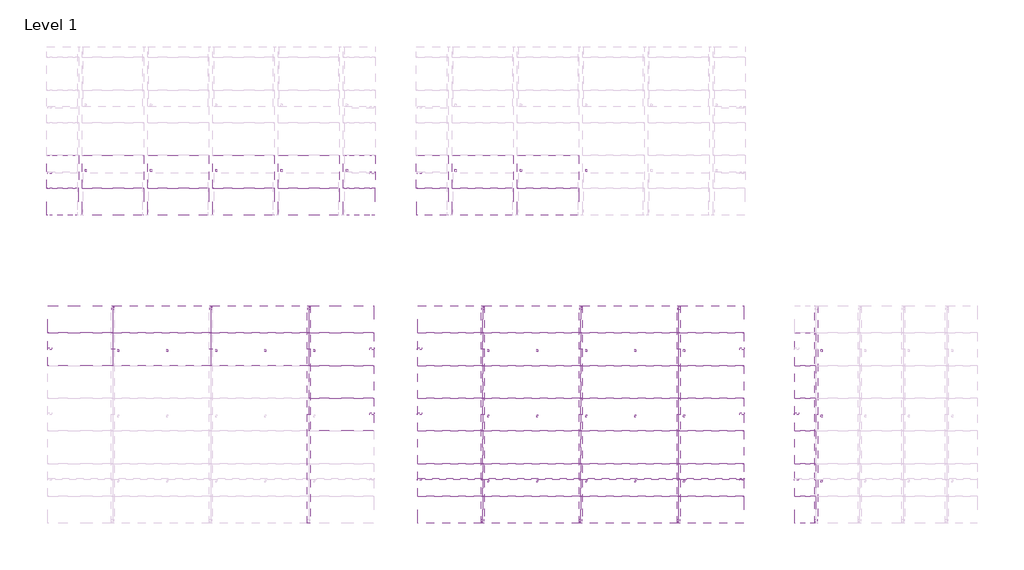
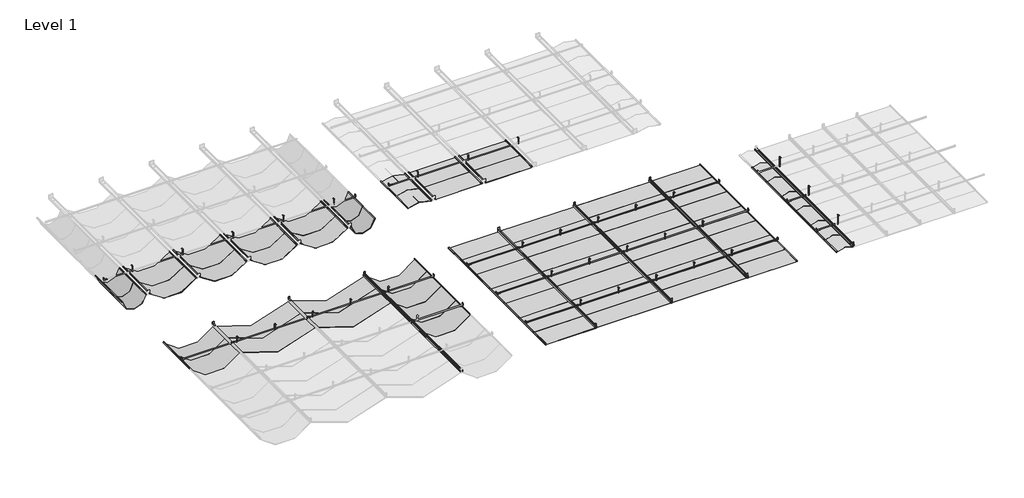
# One storey, part 30 of 32: 138 proxies.
"""IFC4 building model written with IfcOpenShell, lengths in millimetres."""

from ifc_helpers import new_model, si_unit, origin, place, context, project, spatial, transform, mapped, element, save
from components import generic_models_bd86510f, generic_models_00619762, generic_models_35db3c34, generic_models_3d7ed079, generic_models_ec380e44, generic_models_ebad526c, generic_models_70da1f73, generic_models_ead52ac8, generic_models_6aff8082, generic_models_fe305517, generic_models_696bcd8b, generic_models_00a943c8, generic_models_48d4e553, generic_models_385183af, generic_models_e8bac300, generic_models_648c235f, generic_models_1caa2ed6, generic_models_d653b811, generic_models_cf1b64cc, generic_models_ce491251, generic_models_44111244, generic_models_e62b76ac, generic_models_9e18e937, generic_models_28f6a95c, generic_models_9ccf16c1, generic_models_743fb40c

model = new_model("IFC4")

# Units and contexts
model_context = context("Model", 3, world=origin())
ifc_project = project(units=[si_unit("LENGTHUNIT", "METRE", prefix="MILLI")], contexts=[model_context])

# Site, building, storey
site = spatial("IfcSite", under=ifc_project)
building = spatial("IfcBuilding", under=site)
storey = spatial("IfcBuildingStorey", under=building, Name="Level 1", Elevation=0.0)

# Proxies
placement = place(None, origin())
generic_models_shape = generic_models_bd86510f(model_context)
element("IfcBuildingElementProxy", 1, Name="durlum_S5_DOMUS_panel : durlum_S5_DOMUS_panel_wall_width_cut", ObjectType="durlum_S5_DOMUS_panel : durlum_S5_DOMUS_panel_wall_width_cut", at=placement, inside=storey, context=model_context, shape_type="MappedRepresentation", body=[
    mapped(generic_models_shape, transform((37266.0104325, 22950.5348963, 3800.0), x_axis=(1.0, 0.0, 0.0), y_axis=(0.0, 1.0, 0.0), z_axis=(0.0, 0.0, 1.0))),
])
element("IfcBuildingElementProxy", 2, Name="durlum_S5_DOMUS_panel : durlum_S5_DOMUS_panel_wall_width_cut", ObjectType="durlum_S5_DOMUS_panel : durlum_S5_DOMUS_panel_wall_width_cut", at=placement, inside=storey, context=model_context, shape_type="MappedRepresentation", body=[
    mapped(generic_models_shape, transform((36066.0104325, 22950.5348963, 3800.0), x_axis=(1.0, 0.0, 0.0), y_axis=(0.0, 1.0, 0.0), z_axis=(0.0, 0.0, 1.0))),
])
element("IfcBuildingElementProxy", 3, Name="durlum_S5_DOMUS_panel : durlum_S5_DOMUS_panel_wall_width_cut", ObjectType="durlum_S5_DOMUS_panel : durlum_S5_DOMUS_panel_wall_width_cut", at=placement, inside=storey, context=model_context, shape_type="MappedRepresentation", body=[
    mapped(generic_models_shape, transform((38466.0104325, 22950.5348963, 3800.0), x_axis=(1.0, 0.0, 0.0), y_axis=(0.0, 1.0, 0.0), z_axis=(0.0, 0.0, 1.0))),
])
element("IfcBuildingElementProxy", 4, Name="durlum_S5_DOMUS_panel : durlum_S5_DOMUS_panel_wall_width_cut", ObjectType="durlum_S5_DOMUS_panel : durlum_S5_DOMUS_panel_wall_width_cut", at=placement, inside=storey, context=model_context, shape_type="MappedRepresentation", body=[
    mapped(generic_models_shape, transform((34866.0104325, 22950.5348963, 3800.0), x_axis=(1.0, 0.0, 0.0), y_axis=(0.0, 1.0, 0.0), z_axis=(0.0, 0.0, 1.0))),
])
generic_models_2_shape = generic_models_00619762(model_context)
element("IfcBuildingElementProxy", 5, Name="durlum_S5_DOMUS_panel : durlum_S5_DOMUS_panel", ObjectType="durlum_S5_DOMUS_panel : durlum_S5_DOMUS_panel", at=placement, inside=storey, context=model_context, shape_type="MappedRepresentation", body=[
    mapped(generic_models_2_shape, transform((36066.0104325, 23500.5348963, 3800.0), x_axis=(1.0, 0.0, 0.0), y_axis=(0.0, 1.0, 0.0), z_axis=(0.0, 0.0, 1.0))),
])
element("IfcBuildingElementProxy", 6, Name="durlum_S5_DOMUS_panel : durlum_S5_DOMUS_panel", ObjectType="durlum_S5_DOMUS_panel : durlum_S5_DOMUS_panel", at=placement, inside=storey, context=model_context, shape_type="MappedRepresentation", body=[
    mapped(generic_models_2_shape, transform((37266.0104325, 23500.5348963, 3800.0), x_axis=(1.0, 0.0, 0.0), y_axis=(0.0, 1.0, 0.0), z_axis=(0.0, 0.0, 1.0))),
])
element("IfcBuildingElementProxy", 7, Name="durlum_S5_DOMUS_panel : durlum_S5_DOMUS_panel", ObjectType="durlum_S5_DOMUS_panel : durlum_S5_DOMUS_panel", at=placement, inside=storey, context=model_context, shape_type="MappedRepresentation", body=[
    mapped(generic_models_2_shape, transform((34866.0104325, 23500.5348963, 3800.0), x_axis=(1.0, 0.0, 0.0), y_axis=(0.0, 1.0, 0.0), z_axis=(0.0, 0.0, 1.0))),
])
element("IfcBuildingElementProxy", 8, Name="durlum_S5_DOMUS_panel : durlum_S5_DOMUS_panel", ObjectType="durlum_S5_DOMUS_panel : durlum_S5_DOMUS_panel", at=placement, inside=storey, context=model_context, shape_type="MappedRepresentation", body=[
    mapped(generic_models_2_shape, transform((38466.0104325, 23500.5348963, 3800.0), x_axis=(1.0, 0.0, 0.0), y_axis=(0.0, 1.0, 0.0), z_axis=(0.0, 0.0, 1.0))),
])
generic_models_3_shape = generic_models_35db3c34(model_context)
element("IfcBuildingElementProxy", 9, Name="durlum_S5_DOMUS_panel : durlum_S5_DOMUS_panel_wall_length_cut", ObjectType="durlum_S5_DOMUS_panel : durlum_S5_DOMUS_panel_wall_length_cut", at=placement, inside=storey, context=model_context, shape_type="MappedRepresentation", body=[
    mapped(generic_models_3_shape, transform((39391.2604325, 23500.5348963, 3800.0), x_axis=(1.0, 0.0, 0.0), y_axis=(0.0, 1.0, 0.0), z_axis=(0.0, 0.0, 1.0))),
])
element("IfcBuildingElementProxy", 10, Name="durlum_S5_DOMUS_panel : durlum_S5_DOMUS_panel_wall_length_cut", ObjectType="durlum_S5_DOMUS_panel : durlum_S5_DOMUS_panel_wall_length_cut", at=placement, inside=storey, context=model_context, shape_type="MappedRepresentation", body=[
    mapped(generic_models_3_shape, transform((33940.7604325, 23500.5348963, 3800.0), x_axis=(1.0, 0.0, 0.0), y_axis=(0.0, 1.0, 0.0), z_axis=(0.0, 0.0, 1.0))),
])
generic_models_4_shape = generic_models_3d7ed079(model_context)
element("IfcBuildingElementProxy", 11, Name="durlum_S5_DOMUS_panel : durlum_S5_DOMUS_panel_wall_corner", ObjectType="durlum_S5_DOMUS_panel : durlum_S5_DOMUS_panel_wall_corner", at=placement, inside=storey, context=model_context, shape_type="MappedRepresentation", body=[
    mapped(generic_models_4_shape, transform((39391.2604325, 22950.5348963, 3800.0), x_axis=(1.0, 0.0, 0.0), y_axis=(0.0, 1.0, 0.0), z_axis=(0.0, 0.0, 1.0))),
])
element("IfcBuildingElementProxy", 12, Name="durlum_S5_DOMUS_panel : durlum_S5_DOMUS_panel_wall_corner", ObjectType="durlum_S5_DOMUS_panel : durlum_S5_DOMUS_panel_wall_corner", at=placement, inside=storey, context=model_context, shape_type="MappedRepresentation", body=[
    mapped(generic_models_4_shape, transform((33940.7604325, 22950.5348963, 3800.0), x_axis=(1.0, 0.0, 0.0), y_axis=(0.0, 1.0, 0.0), z_axis=(0.0, 0.0, 1.0))),
])
generic_models_5_shape = generic_models_ec380e44(model_context)
element("IfcBuildingElementProxy", 13, Name="durlum_S5_DOMUS_panel : durlum_S5_DOMUS_panel_wall_width_cut", ObjectType="durlum_S5_DOMUS_panel : durlum_S5_DOMUS_panel_wall_width_cut", at=placement, inside=storey, context=model_context, shape_type="MappedRepresentation", body=[
    mapped(generic_models_5_shape, transform((42862.0184144, 22950.5348963, 3800.0), x_axis=(1.0, 0.0, 0.0), y_axis=(0.0, 1.0, 0.0), z_axis=(0.0, 0.0, 1.0))),
])
element("IfcBuildingElementProxy", 14, Name="durlum_S5_DOMUS_panel : durlum_S5_DOMUS_panel_wall_width_cut", ObjectType="durlum_S5_DOMUS_panel : durlum_S5_DOMUS_panel_wall_width_cut", at=placement, inside=storey, context=model_context, shape_type="MappedRepresentation", body=[
    mapped(generic_models_5_shape, transform((41662.0184144, 22950.5348963, 3800.0), x_axis=(1.0, 0.0, 0.0), y_axis=(0.0, 1.0, 0.0), z_axis=(0.0, 0.0, 1.0))),
])
generic_models_6_shape = generic_models_ebad526c(model_context)
element("IfcBuildingElementProxy", 15, Name="durlum_S5_DOMUS_panel : durlum_S5_DOMUS_panel", ObjectType="durlum_S5_DOMUS_panel : durlum_S5_DOMUS_panel", at=placement, inside=storey, context=model_context, shape_type="MappedRepresentation", body=[
    mapped(generic_models_6_shape, transform((42862.0184144, 23500.5348963, 3800.0), x_axis=(1.0, 0.0, 0.0), y_axis=(0.0, 1.0, 0.0), z_axis=(0.0, 0.0, 1.0))),
])
element("IfcBuildingElementProxy", 16, Name="durlum_S5_DOMUS_panel : durlum_S5_DOMUS_panel", ObjectType="durlum_S5_DOMUS_panel : durlum_S5_DOMUS_panel", at=placement, inside=storey, context=model_context, shape_type="MappedRepresentation", body=[
    mapped(generic_models_6_shape, transform((41662.0184144, 23500.5348963, 3800.0), x_axis=(1.0, 0.0, 0.0), y_axis=(0.0, 1.0, 0.0), z_axis=(0.0, 0.0, 1.0))),
])
generic_models_7_shape = generic_models_70da1f73(model_context)
element("IfcBuildingElementProxy", 17, Name="durlum_S5_DOMUS_panel : durlum_S5_DOMUS_panel_wall_length_cut", ObjectType="durlum_S5_DOMUS_panel : durlum_S5_DOMUS_panel_wall_length_cut", at=placement, inside=storey, context=model_context, shape_type="MappedRepresentation", body=[
    mapped(generic_models_7_shape, transform((40736.7684144, 23500.5348963, 3800.0), x_axis=(1.0, 0.0, 0.0), y_axis=(0.0, 1.0, 0.0), z_axis=(0.0, 0.0, 1.0))),
])
generic_models_8_shape = generic_models_ead52ac8(model_context)
element("IfcBuildingElementProxy", 18, Name="durlum_S5_DOMUS_panel : durlum_S5_DOMUS_panel_wall_corner", ObjectType="durlum_S5_DOMUS_panel : durlum_S5_DOMUS_panel_wall_corner", at=placement, inside=storey, context=model_context, shape_type="MappedRepresentation", body=[
    mapped(generic_models_8_shape, transform((40736.7684144, 22950.5348963, 3800.0), x_axis=(1.0, 0.0, 0.0), y_axis=(0.0, 1.0, 0.0), z_axis=(0.0, 0.0, 1.0))),
])
generic_models_9_shape = generic_models_6aff8082(model_context)
element("IfcBuildingElementProxy", 19, Name="durlum_S7_DOMUS_ALT_panel : durlum_S7_DOMUS_panel_wall_length_cut", ObjectType="durlum_S7_DOMUS_ALT_panel : durlum_S7_DOMUS_panel_wall_length_cut", at=placement, inside=storey, context=model_context, shape_type="MappedRepresentation", body=[
    mapped(generic_models_9_shape, transform((47588.589341, 19637.9344659, 3700.0), x_axis=(1.0, 0.0, 0.0), y_axis=(0.0, 1.0, 0.0), z_axis=(0.0, 0.0, 1.0))),
])
element("IfcBuildingElementProxy", 20, Name="durlum_S7_DOMUS_ALT_panel : durlum_S7_DOMUS_panel_wall_length_cut", ObjectType="durlum_S7_DOMUS_ALT_panel : durlum_S7_DOMUS_panel_wall_length_cut", at=placement, inside=storey, context=model_context, shape_type="MappedRepresentation", body=[
    mapped(generic_models_9_shape, transform((47588.589341, 17837.9344659, 3700.0), x_axis=(1.0, 0.0, 0.0), y_axis=(0.0, 1.0, 0.0), z_axis=(0.0, 0.0, 1.0))),
])
element("IfcBuildingElementProxy", 21, Name="durlum_S7_DOMUS_ALT_panel : durlum_S7_DOMUS_panel_wall_length_cut", ObjectType="durlum_S7_DOMUS_ALT_panel : durlum_S7_DOMUS_panel_wall_length_cut", at=placement, inside=storey, context=model_context, shape_type="MappedRepresentation", body=[
    mapped(generic_models_9_shape, transform((47588.589341, 20237.9344659, 3700.0), x_axis=(1.0, 0.0, 0.0), y_axis=(0.0, 1.0, 0.0), z_axis=(0.0, 0.0, 1.0))),
])
element("IfcBuildingElementProxy", 22, Name="durlum_S7_DOMUS_ALT_panel : durlum_S7_DOMUS_panel_wall_length_cut", ObjectType="durlum_S7_DOMUS_ALT_panel : durlum_S7_DOMUS_panel_wall_length_cut", at=placement, inside=storey, context=model_context, shape_type="MappedRepresentation", body=[
    mapped(generic_models_9_shape, transform((47588.589341, 18437.9344659, 3700.0), x_axis=(1.0, 0.0, 0.0), y_axis=(0.0, 1.0, 0.0), z_axis=(0.0, 0.0, 1.0))),
])
element("IfcBuildingElementProxy", 23, Name="durlum_S7_DOMUS_ALT_panel : durlum_S7_DOMUS_panel_wall_length_cut", ObjectType="durlum_S7_DOMUS_ALT_panel : durlum_S7_DOMUS_panel_wall_length_cut", at=placement, inside=storey, context=model_context, shape_type="MappedRepresentation", body=[
    mapped(generic_models_9_shape, transform((47588.589341, 19037.9344659, 3700.0), x_axis=(1.0, 0.0, 0.0), y_axis=(0.0, 1.0, 0.0), z_axis=(0.0, 0.0, 1.0))),
])
generic_models_10_shape = generic_models_fe305517(model_context)
element("IfcBuildingElementProxy", 24, Name="durlum_S7_DOMUS_ALT_panel : durlum_S7_DOMUS_panel_wall_corner", ObjectType="durlum_S7_DOMUS_ALT_panel : durlum_S7_DOMUS_panel_wall_corner", at=placement, inside=storey, context=model_context, shape_type="MappedRepresentation", body=[
    mapped(generic_models_10_shape, transform((47588.589341, 17287.9344659, 3700.0), x_axis=(1.0, 0.0, 0.0), y_axis=(0.0, 1.0, 0.0), z_axis=(0.0, 0.0, 1.0))),
])
generic_models_11_shape = generic_models_696bcd8b(model_context)
element("IfcBuildingElementProxy", 25, Name="durlum_S7_DOMUS_panel : durlum_S7_DOMUS_panel", ObjectType="durlum_S7_DOMUS_panel : durlum_S7_DOMUS_panel", at=placement, inside=storey, context=model_context, shape_type="MappedRepresentation", body=[
    mapped(generic_models_11_shape, transform((35766.0104325, 20237.9344659, 3800.0), x_axis=(1.0, 0.0, 0.0), y_axis=(0.0, 1.0, 0.0), z_axis=(0.0, 0.0, 1.0))),
])
element("IfcBuildingElementProxy", 26, Name="durlum_S7_DOMUS_panel : durlum_S7_DOMUS_panel", ObjectType="durlum_S7_DOMUS_panel : durlum_S7_DOMUS_panel", at=placement, inside=storey, context=model_context, shape_type="MappedRepresentation", body=[
    mapped(generic_models_11_shape, transform((37566.0104325, 20237.9344659, 3800.0), x_axis=(1.0, 0.0, 0.0), y_axis=(0.0, 1.0, 0.0), z_axis=(0.0, 0.0, 1.0))),
])
generic_models_12_shape = generic_models_00a943c8(model_context)
element("IfcBuildingElementProxy", 27, Name="durlum_S7_DOMUS_panel : durlum_S7_DOMUS_panel_wall_width_cut", ObjectType="durlum_S7_DOMUS_panel : durlum_S7_DOMUS_panel_wall_width_cut", at=placement, inside=storey, context=model_context, shape_type="MappedRepresentation", body=[
    mapped(generic_models_12_shape, transform((37566.0104325, 20787.9344659, 3800.0), x_axis=(1.0, 0.0, 0.0), y_axis=(0.0, 1.0, 0.0), z_axis=(0.0, 0.0, 1.0))),
])
element("IfcBuildingElementProxy", 28, Name="durlum_S7_DOMUS_panel : durlum_S7_DOMUS_panel_wall_width_cut", ObjectType="durlum_S7_DOMUS_panel : durlum_S7_DOMUS_panel_wall_width_cut", at=placement, inside=storey, context=model_context, shape_type="MappedRepresentation", body=[
    mapped(generic_models_12_shape, transform((35766.0104325, 20787.9344659, 3800.0), x_axis=(1.0, 0.0, 0.0), y_axis=(0.0, 1.0, 0.0), z_axis=(0.0, 0.0, 1.0))),
])
generic_models_13_shape = generic_models_48d4e553(model_context)
element("IfcBuildingElementProxy", 29, Name="durlum_S7_DOMUS_panel : durlum_S7_DOMUS_panel_wall_length_cut", ObjectType="durlum_S7_DOMUS_panel : durlum_S7_DOMUS_panel_wall_length_cut", at=placement, inside=storey, context=model_context, shape_type="MappedRepresentation", body=[
    mapped(generic_models_13_shape, transform((39066.0104325, 19037.9344659, 3800.0), x_axis=(1.0, 0.0, 0.0), y_axis=(0.0, 1.0, 0.0), z_axis=(0.0, 0.0, 1.0))),
])
element("IfcBuildingElementProxy", 30, Name="durlum_S7_DOMUS_panel : durlum_S7_DOMUS_panel_wall_length_cut", ObjectType="durlum_S7_DOMUS_panel : durlum_S7_DOMUS_panel_wall_length_cut", at=placement, inside=storey, context=model_context, shape_type="MappedRepresentation", body=[
    mapped(generic_models_13_shape, transform((39066.0104325, 19637.9344659, 3800.0), x_axis=(1.0, 0.0, 0.0), y_axis=(0.0, 1.0, 0.0), z_axis=(0.0, 0.0, 1.0))),
])
element("IfcBuildingElementProxy", 31, Name="durlum_S7_DOMUS_panel : durlum_S7_DOMUS_panel_wall_length_cut", ObjectType="durlum_S7_DOMUS_panel : durlum_S7_DOMUS_panel_wall_length_cut", at=placement, inside=storey, context=model_context, shape_type="MappedRepresentation", body=[
    mapped(generic_models_13_shape, transform((39066.0104325, 20237.9344659, 3800.0), x_axis=(1.0, 0.0, 0.0), y_axis=(0.0, 1.0, 0.0), z_axis=(0.0, 0.0, 1.0))),
])
element("IfcBuildingElementProxy", 32, Name="durlum_S7_DOMUS_panel : durlum_S7_DOMUS_panel_wall_length_cut", ObjectType="durlum_S7_DOMUS_panel : durlum_S7_DOMUS_panel_wall_length_cut", at=placement, inside=storey, context=model_context, shape_type="MappedRepresentation", body=[
    mapped(generic_models_13_shape, transform((34266.0104325, 20237.9344659, 3800.0), x_axis=(1.0, 0.0, 0.0), y_axis=(0.0, 1.0, 0.0), z_axis=(0.0, 0.0, 1.0))),
])
generic_models_14_shape = generic_models_385183af(model_context)
element("IfcBuildingElementProxy", 33, Name="durlum_S7_DOMUS_panel : durlum_S7_DOMUS_panel", ObjectType="durlum_S7_DOMUS_panel : durlum_S7_DOMUS_panel", at=placement, inside=storey, context=model_context, shape_type="MappedRepresentation", body=[
    mapped(generic_models_14_shape, transform((39066.0104325, 20787.9344659, 3800.0), x_axis=(1.0, 0.0, 0.0), y_axis=(0.0, 1.0, 0.0), z_axis=(0.0, 0.0, 1.0))),
])
element("IfcBuildingElementProxy", 34, Name="durlum_S7_DOMUS_panel : durlum_S7_DOMUS_panel", ObjectType="durlum_S7_DOMUS_panel : durlum_S7_DOMUS_panel", at=placement, inside=storey, context=model_context, shape_type="MappedRepresentation", body=[
    mapped(generic_models_14_shape, transform((34266.0104325, 20787.9344659, 3800.0), x_axis=(1.0, 0.0, 0.0), y_axis=(0.0, 1.0, 0.0), z_axis=(0.0, 0.0, 1.0))),
])
generic_models_15_shape = generic_models_e8bac300(model_context)
element("IfcBuildingElementProxy", 35, Name="durlum_S7_DOMUS : durlum_S7_DOMUS", ObjectType="durlum_S7_DOMUS : durlum_S7_DOMUS", at=placement, inside=storey, context=model_context, shape_type="MappedRepresentation", body=[
    mapped(generic_models_15_shape, transform((43462.0184144, 19037.9344659, 0.0), x_axis=(1.0, 0.0, 0.0), y_axis=(0.0, 1.0, 0.0), z_axis=(0.0, 0.0, 1.0))),
])
generic_models_16_shape = generic_models_648c235f(model_context)
element("IfcBuildingElementProxy", 36, Name="durlum_S7_DOMUS_panel : durlum_S7_DOMUS_panel", ObjectType="durlum_S7_DOMUS_panel : durlum_S7_DOMUS_panel", at=placement, inside=storey, context=model_context, shape_type="MappedRepresentation", body=[
    mapped(generic_models_16_shape, transform((42562.0184144, 19637.9344659, 3800.0), x_axis=(1.0, 0.0, 0.0), y_axis=(0.0, 1.0, 0.0), z_axis=(0.0, 0.0, 1.0))),
])
element("IfcBuildingElementProxy", 37, Name="durlum_S7_DOMUS_panel : durlum_S7_DOMUS_panel", ObjectType="durlum_S7_DOMUS_panel : durlum_S7_DOMUS_panel", at=placement, inside=storey, context=model_context, shape_type="MappedRepresentation", body=[
    mapped(generic_models_16_shape, transform((44362.0184144, 19637.9344659, 3800.0), x_axis=(1.0, 0.0, 0.0), y_axis=(0.0, 1.0, 0.0), z_axis=(0.0, 0.0, 1.0))),
])
element("IfcBuildingElementProxy", 38, Name="durlum_S7_DOMUS_panel : durlum_S7_DOMUS_panel", ObjectType="durlum_S7_DOMUS_panel : durlum_S7_DOMUS_panel", at=placement, inside=storey, context=model_context, shape_type="MappedRepresentation", body=[
    mapped(generic_models_16_shape, transform((42562.0184144, 17837.9344659, 3800.0), x_axis=(1.0, 0.0, 0.0), y_axis=(0.0, 1.0, 0.0), z_axis=(0.0, 0.0, 1.0))),
])
element("IfcBuildingElementProxy", 39, Name="durlum_S7_DOMUS_panel : durlum_S7_DOMUS_panel", ObjectType="durlum_S7_DOMUS_panel : durlum_S7_DOMUS_panel", at=placement, inside=storey, context=model_context, shape_type="MappedRepresentation", body=[
    mapped(generic_models_16_shape, transform((44362.0184144, 17837.9344659, 3800.0), x_axis=(1.0, 0.0, 0.0), y_axis=(0.0, 1.0, 0.0), z_axis=(0.0, 0.0, 1.0))),
])
element("IfcBuildingElementProxy", 40, Name="durlum_S7_DOMUS_panel : durlum_S7_DOMUS_panel", ObjectType="durlum_S7_DOMUS_panel : durlum_S7_DOMUS_panel", at=placement, inside=storey, context=model_context, shape_type="MappedRepresentation", body=[
    mapped(generic_models_16_shape, transform((42562.0184144, 20237.9344659, 3800.0), x_axis=(1.0, 0.0, 0.0), y_axis=(0.0, 1.0, 0.0), z_axis=(0.0, 0.0, 1.0))),
])
element("IfcBuildingElementProxy", 41, Name="durlum_S7_DOMUS_panel : durlum_S7_DOMUS_panel", ObjectType="durlum_S7_DOMUS_panel : durlum_S7_DOMUS_panel", at=placement, inside=storey, context=model_context, shape_type="MappedRepresentation", body=[
    mapped(generic_models_16_shape, transform((44362.0184144, 20237.9344659, 3800.0), x_axis=(1.0, 0.0, 0.0), y_axis=(0.0, 1.0, 0.0), z_axis=(0.0, 0.0, 1.0))),
])
element("IfcBuildingElementProxy", 42, Name="durlum_S7_DOMUS_panel : durlum_S7_DOMUS_panel", ObjectType="durlum_S7_DOMUS_panel : durlum_S7_DOMUS_panel", at=placement, inside=storey, context=model_context, shape_type="MappedRepresentation", body=[
    mapped(generic_models_16_shape, transform((42562.0184144, 18437.9344659, 3800.0), x_axis=(1.0, 0.0, 0.0), y_axis=(0.0, 1.0, 0.0), z_axis=(0.0, 0.0, 1.0))),
])
element("IfcBuildingElementProxy", 43, Name="durlum_S7_DOMUS_panel : durlum_S7_DOMUS_panel", ObjectType="durlum_S7_DOMUS_panel : durlum_S7_DOMUS_panel", at=placement, inside=storey, context=model_context, shape_type="MappedRepresentation", body=[
    mapped(generic_models_16_shape, transform((44362.0184144, 18437.9344659, 3800.0), x_axis=(1.0, 0.0, 0.0), y_axis=(0.0, 1.0, 0.0), z_axis=(0.0, 0.0, 1.0))),
])
element("IfcBuildingElementProxy", 44, Name="durlum_S7_DOMUS_panel : durlum_S7_DOMUS_panel", ObjectType="durlum_S7_DOMUS_panel : durlum_S7_DOMUS_panel", at=placement, inside=storey, context=model_context, shape_type="MappedRepresentation", body=[
    mapped(generic_models_16_shape, transform((42562.0184144, 19037.9344659, 3800.0), x_axis=(1.0, 0.0, 0.0), y_axis=(0.0, 1.0, 0.0), z_axis=(0.0, 0.0, 1.0))),
])
element("IfcBuildingElementProxy", 45, Name="durlum_S7_DOMUS_panel : durlum_S7_DOMUS_panel", ObjectType="durlum_S7_DOMUS_panel : durlum_S7_DOMUS_panel", at=placement, inside=storey, context=model_context, shape_type="MappedRepresentation", body=[
    mapped(generic_models_16_shape, transform((44362.0184144, 19037.9344659, 3800.0), x_axis=(1.0, 0.0, 0.0), y_axis=(0.0, 1.0, 0.0), z_axis=(0.0, 0.0, 1.0))),
])
generic_models_17_shape = generic_models_1caa2ed6(model_context)
element("IfcBuildingElementProxy", 46, Name="durlum_S7_DOMUS_panel : durlum_S7_DOMUS_panel_wall_width_cut", ObjectType="durlum_S7_DOMUS_panel : durlum_S7_DOMUS_panel_wall_width_cut", at=placement, inside=storey, context=model_context, shape_type="MappedRepresentation", body=[
    mapped(generic_models_17_shape, transform((44362.0184144, 17287.9344659, 3800.0), x_axis=(1.0, 0.0, 0.0), y_axis=(0.0, 1.0, 0.0), z_axis=(0.0, 0.0, 1.0))),
])
element("IfcBuildingElementProxy", 47, Name="durlum_S7_DOMUS_panel : durlum_S7_DOMUS_panel_wall_width_cut", ObjectType="durlum_S7_DOMUS_panel : durlum_S7_DOMUS_panel_wall_width_cut", at=placement, inside=storey, context=model_context, shape_type="MappedRepresentation", body=[
    mapped(generic_models_17_shape, transform((44362.0184144, 20787.9344659, 3800.0), x_axis=(1.0, 0.0, 0.0), y_axis=(0.0, 1.0, 0.0), z_axis=(0.0, 0.0, 1.0))),
])
element("IfcBuildingElementProxy", 48, Name="durlum_S7_DOMUS_panel : durlum_S7_DOMUS_panel_wall_width_cut", ObjectType="durlum_S7_DOMUS_panel : durlum_S7_DOMUS_panel_wall_width_cut", at=placement, inside=storey, context=model_context, shape_type="MappedRepresentation", body=[
    mapped(generic_models_17_shape, transform((42562.0184144, 17287.9344659, 3800.0), x_axis=(1.0, 0.0, 0.0), y_axis=(0.0, 1.0, 0.0), z_axis=(0.0, 0.0, 1.0))),
])
element("IfcBuildingElementProxy", 49, Name="durlum_S7_DOMUS_panel : durlum_S7_DOMUS_panel_wall_width_cut", ObjectType="durlum_S7_DOMUS_panel : durlum_S7_DOMUS_panel_wall_width_cut", at=placement, inside=storey, context=model_context, shape_type="MappedRepresentation", body=[
    mapped(generic_models_17_shape, transform((42562.0184144, 20787.9344659, 3800.0), x_axis=(1.0, 0.0, 0.0), y_axis=(0.0, 1.0, 0.0), z_axis=(0.0, 0.0, 1.0))),
])
generic_models_18_shape = generic_models_d653b811(model_context)
element("IfcBuildingElementProxy", 50, Name="durlum_S7_DOMUS_panel : durlum_S7_DOMUS_panel_wall_length_cut", ObjectType="durlum_S7_DOMUS_panel : durlum_S7_DOMUS_panel_wall_length_cut", at=placement, inside=storey, context=model_context, shape_type="MappedRepresentation", body=[
    mapped(generic_models_18_shape, transform((41062.0184144, 18437.9344659, 3800.0), x_axis=(1.0, 0.0, 0.0), y_axis=(0.0, 1.0, 0.0), z_axis=(0.0, 0.0, 1.0))),
])
element("IfcBuildingElementProxy", 51, Name="durlum_S7_DOMUS_panel : durlum_S7_DOMUS_panel_wall_length_cut", ObjectType="durlum_S7_DOMUS_panel : durlum_S7_DOMUS_panel_wall_length_cut", at=placement, inside=storey, context=model_context, shape_type="MappedRepresentation", body=[
    mapped(generic_models_18_shape, transform((41062.0184144, 19037.9344659, 3800.0), x_axis=(1.0, 0.0, 0.0), y_axis=(0.0, 1.0, 0.0), z_axis=(0.0, 0.0, 1.0))),
])
element("IfcBuildingElementProxy", 52, Name="durlum_S7_DOMUS_panel : durlum_S7_DOMUS_panel_wall_length_cut", ObjectType="durlum_S7_DOMUS_panel : durlum_S7_DOMUS_panel_wall_length_cut", at=placement, inside=storey, context=model_context, shape_type="MappedRepresentation", body=[
    mapped(generic_models_18_shape, transform((45862.0184144, 18437.9344659, 3800.0), x_axis=(1.0, 0.0, 0.0), y_axis=(0.0, 1.0, 0.0), z_axis=(0.0, 0.0, 1.0))),
])
element("IfcBuildingElementProxy", 53, Name="durlum_S7_DOMUS_panel : durlum_S7_DOMUS_panel_wall_length_cut", ObjectType="durlum_S7_DOMUS_panel : durlum_S7_DOMUS_panel_wall_length_cut", at=placement, inside=storey, context=model_context, shape_type="MappedRepresentation", body=[
    mapped(generic_models_18_shape, transform((45862.0184144, 19037.9344659, 3800.0), x_axis=(1.0, 0.0, 0.0), y_axis=(0.0, 1.0, 0.0), z_axis=(0.0, 0.0, 1.0))),
])
element("IfcBuildingElementProxy", 54, Name="durlum_S7_DOMUS_panel : durlum_S7_DOMUS_panel_wall_length_cut", ObjectType="durlum_S7_DOMUS_panel : durlum_S7_DOMUS_panel_wall_length_cut", at=placement, inside=storey, context=model_context, shape_type="MappedRepresentation", body=[
    mapped(generic_models_18_shape, transform((41062.0184144, 19637.9344659, 3800.0), x_axis=(1.0, 0.0, 0.0), y_axis=(0.0, 1.0, 0.0), z_axis=(0.0, 0.0, 1.0))),
])
element("IfcBuildingElementProxy", 55, Name="durlum_S7_DOMUS_panel : durlum_S7_DOMUS_panel_wall_length_cut", ObjectType="durlum_S7_DOMUS_panel : durlum_S7_DOMUS_panel_wall_length_cut", at=placement, inside=storey, context=model_context, shape_type="MappedRepresentation", body=[
    mapped(generic_models_18_shape, transform((45862.0184144, 19637.9344659, 3800.0), x_axis=(1.0, 0.0, 0.0), y_axis=(0.0, 1.0, 0.0), z_axis=(0.0, 0.0, 1.0))),
])
element("IfcBuildingElementProxy", 56, Name="durlum_S7_DOMUS_panel : durlum_S7_DOMUS_panel_wall_length_cut", ObjectType="durlum_S7_DOMUS_panel : durlum_S7_DOMUS_panel_wall_length_cut", at=placement, inside=storey, context=model_context, shape_type="MappedRepresentation", body=[
    mapped(generic_models_18_shape, transform((41062.0184144, 17837.9344659, 3800.0), x_axis=(1.0, 0.0, 0.0), y_axis=(0.0, 1.0, 0.0), z_axis=(0.0, 0.0, 1.0))),
])
element("IfcBuildingElementProxy", 57, Name="durlum_S7_DOMUS_panel : durlum_S7_DOMUS_panel_wall_length_cut", ObjectType="durlum_S7_DOMUS_panel : durlum_S7_DOMUS_panel_wall_length_cut", at=placement, inside=storey, context=model_context, shape_type="MappedRepresentation", body=[
    mapped(generic_models_18_shape, transform((45862.0184144, 17837.9344659, 3800.0), x_axis=(1.0, 0.0, 0.0), y_axis=(0.0, 1.0, 0.0), z_axis=(0.0, 0.0, 1.0))),
])
element("IfcBuildingElementProxy", 58, Name="durlum_S7_DOMUS_panel : durlum_S7_DOMUS_panel_wall_length_cut", ObjectType="durlum_S7_DOMUS_panel : durlum_S7_DOMUS_panel_wall_length_cut", at=placement, inside=storey, context=model_context, shape_type="MappedRepresentation", body=[
    mapped(generic_models_18_shape, transform((45862.0184144, 20237.9344659, 3800.0), x_axis=(1.0, 0.0, 0.0), y_axis=(0.0, 1.0, 0.0), z_axis=(0.0, 0.0, 1.0))),
])
element("IfcBuildingElementProxy", 59, Name="durlum_S7_DOMUS_panel : durlum_S7_DOMUS_panel_wall_length_cut", ObjectType="durlum_S7_DOMUS_panel : durlum_S7_DOMUS_panel_wall_length_cut", at=placement, inside=storey, context=model_context, shape_type="MappedRepresentation", body=[
    mapped(generic_models_18_shape, transform((41062.0184144, 20237.9344659, 3800.0), x_axis=(1.0, 0.0, 0.0), y_axis=(0.0, 1.0, 0.0), z_axis=(0.0, 0.0, 1.0))),
])
generic_models_19_shape = generic_models_cf1b64cc(model_context)
element("IfcBuildingElementProxy", 60, Name="durlum_S7_DOMUS_panel : durlum_S7_DOMUS_panel", ObjectType="durlum_S7_DOMUS_panel : durlum_S7_DOMUS_panel", at=placement, inside=storey, context=model_context, shape_type="MappedRepresentation", body=[
    mapped(generic_models_19_shape, transform((45862.0184144, 20787.9344659, 3800.0), x_axis=(1.0, 0.0, 0.0), y_axis=(0.0, 1.0, 0.0), z_axis=(0.0, 0.0, 1.0))),
])
element("IfcBuildingElementProxy", 61, Name="durlum_S7_DOMUS_panel : durlum_S7_DOMUS_panel", ObjectType="durlum_S7_DOMUS_panel : durlum_S7_DOMUS_panel", at=placement, inside=storey, context=model_context, shape_type="MappedRepresentation", body=[
    mapped(generic_models_19_shape, transform((41062.0184144, 20787.9344659, 3800.0), x_axis=(1.0, 0.0, 0.0), y_axis=(0.0, 1.0, 0.0), z_axis=(0.0, 0.0, 1.0))),
])
element("IfcBuildingElementProxy", 62, Name="durlum_S7_DOMUS_panel : durlum_S7_DOMUS_panel", ObjectType="durlum_S7_DOMUS_panel : durlum_S7_DOMUS_panel", at=placement, inside=storey, context=model_context, shape_type="MappedRepresentation", body=[
    mapped(generic_models_19_shape, transform((41062.0184144, 17287.9344659, 3800.0), x_axis=(1.0, 0.0, 0.0), y_axis=(0.0, 1.0, 0.0), z_axis=(0.0, 0.0, 1.0))),
])
element("IfcBuildingElementProxy", 63, Name="durlum_S7_DOMUS_panel : durlum_S7_DOMUS_panel", ObjectType="durlum_S7_DOMUS_panel : durlum_S7_DOMUS_panel", at=placement, inside=storey, context=model_context, shape_type="MappedRepresentation", body=[
    mapped(generic_models_19_shape, transform((45862.0184144, 17287.9344659, 3800.0), x_axis=(1.0, 0.0, 0.0), y_axis=(0.0, 1.0, 0.0), z_axis=(0.0, 0.0, 1.0))),
])
generic_models_20_shape = generic_models_ce491251(model_context)
element("IfcBuildingElementProxy", 64, Name="durlum_U1300 : durlum_U1300", ObjectType="durlum_U1300 : durlum_U1300", at=placement, inside=storey, context=model_context, shape_type="MappedRepresentation", body=[
    mapped(generic_models_20_shape, transform((37966.0104325, 23500.5348963, 3149.4124682), x_axis=(-1.0, 0.0, 0.0), y_axis=(0.0, -1.0, 0.0), z_axis=(0.0, 0.0, 1.0))),
])
element("IfcBuildingElementProxy", 65, Name="durlum_U1300 : durlum_U1300", ObjectType="durlum_U1300 : durlum_U1300", at=placement, inside=storey, context=model_context, shape_type="MappedRepresentation", body=[
    mapped(generic_models_20_shape, transform((34366.0104325, 23500.5348963, 3149.4124682), x_axis=(-1.0, 0.0, 0.0), y_axis=(0.0, -1.0, 0.0), z_axis=(0.0, 0.0, 1.0))),
])
element("IfcBuildingElementProxy", 66, Name="durlum_U1300 : durlum_U1300", ObjectType="durlum_U1300 : durlum_U1300", at=placement, inside=storey, context=model_context, shape_type="MappedRepresentation", body=[
    mapped(generic_models_20_shape, transform((39166.0104325, 23500.5348963, 3149.4124682), x_axis=(-1.0, 0.0, 0.0), y_axis=(0.0, -1.0, 0.0), z_axis=(0.0, 0.0, 1.0))),
])
element("IfcBuildingElementProxy", 67, Name="durlum_U1300 : durlum_U1300", ObjectType="durlum_U1300 : durlum_U1300", at=placement, inside=storey, context=model_context, shape_type="MappedRepresentation", body=[
    mapped(generic_models_20_shape, transform((35566.0104325, 23500.5348963, 3149.4124682), x_axis=(-1.0, 0.0, 0.0), y_axis=(0.0, -1.0, 0.0), z_axis=(0.0, 0.0, 1.0))),
])
element("IfcBuildingElementProxy", 68, Name="durlum_U1300 : durlum_U1300", ObjectType="durlum_U1300 : durlum_U1300", at=placement, inside=storey, context=model_context, shape_type="MappedRepresentation", body=[
    mapped(generic_models_20_shape, transform((36766.0104325, 23500.5348963, 3149.4124682), x_axis=(-1.0, 0.0, 0.0), y_axis=(0.0, -1.0, 0.0), z_axis=(0.0, 0.0, 1.0))),
])
element("IfcBuildingElementProxy", 69, Name="durlum_U1300 : durlum_U1300", ObjectType="durlum_U1300 : durlum_U1300", at=placement, inside=storey, context=model_context, shape_type="MappedRepresentation", body=[
    mapped(generic_models_20_shape, transform((41162.0184144, 23500.5348963, 3149.4124682), x_axis=(-1.0, 0.0, 0.0), y_axis=(0.0, -1.0, 0.0), z_axis=(0.0, 0.0, 1.0))),
])
element("IfcBuildingElementProxy", 70, Name="durlum_U1300 : durlum_U1300", ObjectType="durlum_U1300 : durlum_U1300", at=placement, inside=storey, context=model_context, shape_type="MappedRepresentation", body=[
    mapped(generic_models_20_shape, transform((42362.0184144, 23500.5348963, 3149.4124682), x_axis=(-1.0, 0.0, 0.0), y_axis=(0.0, -1.0, 0.0), z_axis=(0.0, 0.0, 1.0))),
])
element("IfcBuildingElementProxy", 71, Name="durlum_U1300 : durlum_U1300", ObjectType="durlum_U1300 : durlum_U1300", at=placement, inside=storey, context=model_context, shape_type="MappedRepresentation", body=[
    mapped(generic_models_20_shape, transform((43562.0184144, 23500.5348963, 3149.4124682), x_axis=(-1.0, 0.0, 0.0), y_axis=(0.0, -1.0, 0.0), z_axis=(0.0, 0.0, 1.0))),
])
generic_models_21_shape = generic_models_44111244(model_context)
element("IfcBuildingElementProxy", 72, Name="durlum_U1300 : durlum_U1300", ObjectType="durlum_U1300 : durlum_U1300", at=placement, inside=storey, context=model_context, shape_type="MappedRepresentation", body=[
    mapped(generic_models_21_shape, transform((34966.0104325, 20237.9344659, 3141.4124682), x_axis=(1.0, 0.0, 0.0), y_axis=(0.0, 1.0, 0.0), z_axis=(0.0, 0.0, 1.0))),
])
element("IfcBuildingElementProxy", 73, Name="durlum_U1300 : durlum_U1300", ObjectType="durlum_U1300 : durlum_U1300", at=placement, inside=storey, context=model_context, shape_type="MappedRepresentation", body=[
    mapped(generic_models_21_shape, transform((38566.0104325, 20237.9344659, 3141.4124682), x_axis=(1.0, 0.0, 0.0), y_axis=(0.0, 1.0, 0.0), z_axis=(0.0, 0.0, 1.0))),
])
element("IfcBuildingElementProxy", 74, Name="durlum_U1300 : durlum_U1300", ObjectType="durlum_U1300 : durlum_U1300", at=placement, inside=storey, context=model_context, shape_type="MappedRepresentation", body=[
    mapped(generic_models_21_shape, transform((35866.0104325, 20237.9344659, 3141.4124682), x_axis=(1.0, 0.0, 0.0), y_axis=(0.0, 1.0, 0.0), z_axis=(0.0, 0.0, 1.0))),
])
element("IfcBuildingElementProxy", 75, Name="durlum_U1300 : durlum_U1300", ObjectType="durlum_U1300 : durlum_U1300", at=placement, inside=storey, context=model_context, shape_type="MappedRepresentation", body=[
    mapped(generic_models_21_shape, transform((36766.0104325, 20237.9344659, 3141.4124682), x_axis=(1.0, 0.0, 0.0), y_axis=(0.0, 1.0, 0.0), z_axis=(0.0, 0.0, 1.0))),
])
element("IfcBuildingElementProxy", 76, Name="durlum_U1300 : durlum_U1300", ObjectType="durlum_U1300 : durlum_U1300", at=placement, inside=storey, context=model_context, shape_type="MappedRepresentation", body=[
    mapped(generic_models_21_shape, transform((37666.0104325, 20237.9344659, 3141.4124682), x_axis=(1.0, 0.0, 0.0), y_axis=(0.0, 1.0, 0.0), z_axis=(0.0, 0.0, 1.0))),
])
element("IfcBuildingElementProxy", 77, Name="durlum_U1300 : durlum_U1300", ObjectType="durlum_U1300 : durlum_U1300", at=placement, inside=storey, context=model_context, shape_type="MappedRepresentation", body=[
    mapped(generic_models_21_shape, transform((41762.0184144, 20237.9344659, 3141.4124682), x_axis=(1.0, 0.0, 0.0), y_axis=(0.0, 1.0, 0.0), z_axis=(0.0, 0.0, 1.0))),
])
element("IfcBuildingElementProxy", 78, Name="durlum_U1300 : durlum_U1300", ObjectType="durlum_U1300 : durlum_U1300", at=placement, inside=storey, context=model_context, shape_type="MappedRepresentation", body=[
    mapped(generic_models_21_shape, transform((45362.0184144, 20237.9344659, 3141.4124682), x_axis=(1.0, 0.0, 0.0), y_axis=(0.0, 1.0, 0.0), z_axis=(0.0, 0.0, 1.0))),
])
element("IfcBuildingElementProxy", 79, Name="durlum_U1300 : durlum_U1300", ObjectType="durlum_U1300 : durlum_U1300", at=placement, inside=storey, context=model_context, shape_type="MappedRepresentation", body=[
    mapped(generic_models_21_shape, transform((42662.0184144, 20237.9344659, 3141.4124682), x_axis=(1.0, 0.0, 0.0), y_axis=(0.0, 1.0, 0.0), z_axis=(0.0, 0.0, 1.0))),
])
element("IfcBuildingElementProxy", 80, Name="durlum_U1300 : durlum_U1300", ObjectType="durlum_U1300 : durlum_U1300", at=placement, inside=storey, context=model_context, shape_type="MappedRepresentation", body=[
    mapped(generic_models_21_shape, transform((41762.0184144, 17837.9344659, 3141.4124682), x_axis=(1.0, 0.0, 0.0), y_axis=(0.0, 1.0, 0.0), z_axis=(0.0, 0.0, 1.0))),
])
element("IfcBuildingElementProxy", 81, Name="durlum_U1300 : durlum_U1300", ObjectType="durlum_U1300 : durlum_U1300", at=placement, inside=storey, context=model_context, shape_type="MappedRepresentation", body=[
    mapped(generic_models_21_shape, transform((45362.0184144, 17837.9344659, 3141.4124682), x_axis=(1.0, 0.0, 0.0), y_axis=(0.0, 1.0, 0.0), z_axis=(0.0, 0.0, 1.0))),
])
element("IfcBuildingElementProxy", 82, Name="durlum_U1300 : durlum_U1300", ObjectType="durlum_U1300 : durlum_U1300", at=placement, inside=storey, context=model_context, shape_type="MappedRepresentation", body=[
    mapped(generic_models_21_shape, transform((42662.0184144, 17837.9344659, 3141.4124682), x_axis=(1.0, 0.0, 0.0), y_axis=(0.0, 1.0, 0.0), z_axis=(0.0, 0.0, 1.0))),
])
element("IfcBuildingElementProxy", 83, Name="durlum_U1300 : durlum_U1300", ObjectType="durlum_U1300 : durlum_U1300", at=placement, inside=storey, context=model_context, shape_type="MappedRepresentation", body=[
    mapped(generic_models_21_shape, transform((41762.0184144, 19037.9344659, 3141.4124682), x_axis=(1.0, 0.0, 0.0), y_axis=(0.0, 1.0, 0.0), z_axis=(0.0, 0.0, 1.0))),
])
element("IfcBuildingElementProxy", 84, Name="durlum_U1300 : durlum_U1300", ObjectType="durlum_U1300 : durlum_U1300", at=placement, inside=storey, context=model_context, shape_type="MappedRepresentation", body=[
    mapped(generic_models_21_shape, transform((45362.0184144, 19037.9344659, 3141.4124682), x_axis=(1.0, 0.0, 0.0), y_axis=(0.0, 1.0, 0.0), z_axis=(0.0, 0.0, 1.0))),
])
element("IfcBuildingElementProxy", 85, Name="durlum_U1300 : durlum_U1300", ObjectType="durlum_U1300 : durlum_U1300", at=placement, inside=storey, context=model_context, shape_type="MappedRepresentation", body=[
    mapped(generic_models_21_shape, transform((42662.0184144, 19037.9344659, 3141.4124682), x_axis=(1.0, 0.0, 0.0), y_axis=(0.0, 1.0, 0.0), z_axis=(0.0, 0.0, 1.0))),
])
element("IfcBuildingElementProxy", 86, Name="durlum_U1300 : durlum_U1300", ObjectType="durlum_U1300 : durlum_U1300", at=placement, inside=storey, context=model_context, shape_type="MappedRepresentation", body=[
    mapped(generic_models_21_shape, transform((43562.0184144, 20237.9344659, 3141.4124682), x_axis=(1.0, 0.0, 0.0), y_axis=(0.0, 1.0, 0.0), z_axis=(0.0, 0.0, 1.0))),
])
element("IfcBuildingElementProxy", 87, Name="durlum_U1300 : durlum_U1300", ObjectType="durlum_U1300 : durlum_U1300", at=placement, inside=storey, context=model_context, shape_type="MappedRepresentation", body=[
    mapped(generic_models_21_shape, transform((43562.0184144, 17837.9344659, 3141.4124682), x_axis=(1.0, 0.0, 0.0), y_axis=(0.0, 1.0, 0.0), z_axis=(0.0, 0.0, 1.0))),
])
element("IfcBuildingElementProxy", 88, Name="durlum_U1300 : durlum_U1300", ObjectType="durlum_U1300 : durlum_U1300", at=placement, inside=storey, context=model_context, shape_type="MappedRepresentation", body=[
    mapped(generic_models_21_shape, transform((43562.0184144, 19037.9344659, 3141.4124682), x_axis=(1.0, 0.0, 0.0), y_axis=(0.0, 1.0, 0.0), z_axis=(0.0, 0.0, 1.0))),
])
element("IfcBuildingElementProxy", 89, Name="durlum_U1300 : durlum_U1300", ObjectType="durlum_U1300 : durlum_U1300", at=placement, inside=storey, context=model_context, shape_type="MappedRepresentation", body=[
    mapped(generic_models_21_shape, transform((44462.0184144, 20237.9344659, 3141.4124682), x_axis=(1.0, 0.0, 0.0), y_axis=(0.0, 1.0, 0.0), z_axis=(0.0, 0.0, 1.0))),
])
element("IfcBuildingElementProxy", 90, Name="durlum_U1300 : durlum_U1300", ObjectType="durlum_U1300 : durlum_U1300", at=placement, inside=storey, context=model_context, shape_type="MappedRepresentation", body=[
    mapped(generic_models_21_shape, transform((44462.0184144, 17837.9344659, 3141.4124682), x_axis=(1.0, 0.0, 0.0), y_axis=(0.0, 1.0, 0.0), z_axis=(0.0, 0.0, 1.0))),
])
element("IfcBuildingElementProxy", 91, Name="durlum_U1300 : durlum_U1300", ObjectType="durlum_U1300 : durlum_U1300", at=placement, inside=storey, context=model_context, shape_type="MappedRepresentation", body=[
    mapped(generic_models_21_shape, transform((44462.0184144, 19037.9344659, 3141.4124682), x_axis=(1.0, 0.0, 0.0), y_axis=(0.0, 1.0, 0.0), z_axis=(0.0, 0.0, 1.0))),
])
generic_models_22_shape = generic_models_e62b76ac(model_context)
element("IfcBuildingElementProxy", 92, Name="durlum_U1300 : durlum_U1300", ObjectType="durlum_U1300 : durlum_U1300", at=placement, inside=storey, context=model_context, shape_type="MappedRepresentation", body=[
    mapped(generic_models_22_shape, transform((47888.589341, 20237.9344659, 3041.4124682), x_axis=(1.0, 0.0, 0.0), y_axis=(0.0, 1.0, 0.0), z_axis=(0.0, 0.0, 1.0))),
])
element("IfcBuildingElementProxy", 93, Name="durlum_U1300 : durlum_U1300", ObjectType="durlum_U1300 : durlum_U1300", at=placement, inside=storey, context=model_context, shape_type="MappedRepresentation", body=[
    mapped(generic_models_22_shape, transform((47888.589341, 17837.9344659, 3041.4124682), x_axis=(1.0, 0.0, 0.0), y_axis=(0.0, 1.0, 0.0), z_axis=(0.0, 0.0, 1.0))),
])
element("IfcBuildingElementProxy", 94, Name="durlum_U1300 : durlum_U1300", ObjectType="durlum_U1300 : durlum_U1300", at=placement, inside=storey, context=model_context, shape_type="MappedRepresentation", body=[
    mapped(generic_models_22_shape, transform((47888.589341, 19037.9344659, 3041.4124682), x_axis=(1.0, 0.0, 0.0), y_axis=(0.0, 1.0, 0.0), z_axis=(0.0, 0.0, 1.0))),
])
generic_models_23_shape = generic_models_9e18e937(model_context)
element("IfcBuildingElementProxy", 95, Name="durlum_U1042 : durlum_U1042", ObjectType="durlum_U1042 : durlum_U1042", at=placement, inside=storey, context=model_context, shape_type="MappedRepresentation", body=[
    mapped(generic_models_23_shape, transform((36666.0104325, 21037.9344659, 3863.0), x_axis=(1.0, 0.0, 0.0), y_axis=(0.0, 1.0, 0.0), z_axis=(0.0, 0.0, 1.0))),
])
element("IfcBuildingElementProxy", 96, Name="durlum_U1042 : durlum_U1042", ObjectType="durlum_U1042 : durlum_U1042", at=placement, inside=storey, context=model_context, shape_type="MappedRepresentation", body=[
    mapped(generic_models_23_shape, transform((34866.0104325, 21037.9344659, 3863.0), x_axis=(1.0, 0.0, 0.0), y_axis=(0.0, 1.0, 0.0), z_axis=(0.0, 0.0, 1.0))),
])
element("IfcBuildingElementProxy", 97, Name="durlum_U1042 : durlum_U1042", ObjectType="durlum_U1042 : durlum_U1042", at=placement, inside=storey, context=model_context, shape_type="MappedRepresentation", body=[
    mapped(generic_models_23_shape, transform((38466.0104325, 21037.9344659, 3863.0), x_axis=(1.0, 0.0, 0.0), y_axis=(0.0, 1.0, 0.0), z_axis=(0.0, 0.0, 1.0))),
])
element("IfcBuildingElementProxy", 98, Name="durlum_U1042 : durlum_U1042", ObjectType="durlum_U1042 : durlum_U1042", at=placement, inside=storey, context=model_context, shape_type="MappedRepresentation", body=[
    mapped(generic_models_23_shape, transform((43462.0184144, 21037.9344659, 3863.0), x_axis=(1.0, 0.0, 0.0), y_axis=(0.0, 1.0, 0.0), z_axis=(0.0, 0.0, 1.0))),
])
element("IfcBuildingElementProxy", 99, Name="durlum_U1042 : durlum_U1042", ObjectType="durlum_U1042 : durlum_U1042", at=placement, inside=storey, context=model_context, shape_type="MappedRepresentation", body=[
    mapped(generic_models_23_shape, transform((43462.0184144, 17037.9344659, 3863.0), x_axis=(-1.0, 0.0, 0.0), y_axis=(0.0, -1.0, 0.0), z_axis=(0.0, 0.0, 1.0))),
])
element("IfcBuildingElementProxy", 100, Name="durlum_U1042 : durlum_U1042", ObjectType="durlum_U1042 : durlum_U1042", at=placement, inside=storey, context=model_context, shape_type="MappedRepresentation", body=[
    mapped(generic_models_23_shape, transform((41662.0184144, 17037.9344659, 3863.0), x_axis=(-1.0, 0.0, 0.0), y_axis=(0.0, -1.0, 0.0), z_axis=(0.0, 0.0, 1.0))),
])
element("IfcBuildingElementProxy", 101, Name="durlum_U1042 : durlum_U1042", ObjectType="durlum_U1042 : durlum_U1042", at=placement, inside=storey, context=model_context, shape_type="MappedRepresentation", body=[
    mapped(generic_models_23_shape, transform((41662.0184144, 21037.9344659, 3863.0), x_axis=(1.0, 0.0, 0.0), y_axis=(0.0, 1.0, 0.0), z_axis=(0.0, 0.0, 1.0))),
])
element("IfcBuildingElementProxy", 102, Name="durlum_U1042 : durlum_U1042", ObjectType="durlum_U1042 : durlum_U1042", at=placement, inside=storey, context=model_context, shape_type="MappedRepresentation", body=[
    mapped(generic_models_23_shape, transform((45262.0184144, 21037.9344659, 3863.0), x_axis=(1.0, 0.0, 0.0), y_axis=(0.0, 1.0, 0.0), z_axis=(0.0, 0.0, 1.0))),
])
element("IfcBuildingElementProxy", 103, Name="durlum_U1042 : durlum_U1042", ObjectType="durlum_U1042 : durlum_U1042", at=placement, inside=storey, context=model_context, shape_type="MappedRepresentation", body=[
    mapped(generic_models_23_shape, transform((45262.0184144, 17037.9344659, 3863.0), x_axis=(-1.0, 0.0, 0.0), y_axis=(0.0, -1.0, 0.0), z_axis=(0.0, 0.0, 1.0))),
])
element("IfcBuildingElementProxy", 104, Name="durlum_U1042 : durlum_U1042", ObjectType="durlum_U1042 : durlum_U1042", at=placement, inside=storey, context=model_context, shape_type="MappedRepresentation", body=[
    mapped(generic_models_23_shape, transform((47788.589341, 17037.9344659, 3763.0), x_axis=(-1.0, 0.0, 0.0), y_axis=(0.0, -1.0, 0.0), z_axis=(0.0, 0.0, 1.0))),
])
generic_models_24_shape = generic_models_28f6a95c(model_context)
element("IfcBuildingElementProxy", 105, Name="durlum_U1042 : durlum_U1042", ObjectType="durlum_U1042 : durlum_U1042", at=placement, inside=storey, context=model_context, shape_type="MappedRepresentation", body=[
    mapped(generic_models_24_shape, transform((33666.0104325, 20251.9344659, 3861.0), x_axis=(0.0, -1.0, 0.0), y_axis=(1.0, 0.0, 0.0), z_axis=(0.0, 0.0, 1.0))),
])
element("IfcBuildingElementProxy", 106, Name="durlum_U1042 : durlum_U1042", ObjectType="durlum_U1042 : durlum_U1042", at=placement, inside=storey, context=model_context, shape_type="MappedRepresentation", body=[
    mapped(generic_models_24_shape, transform((33666.0104325, 23485.5348963, 3906.0), x_axis=(0.0, -1.0, 0.0), y_axis=(1.0, 0.0, 0.0), z_axis=(0.0, 0.0, 1.0))),
])
element("IfcBuildingElementProxy", 107, Name="durlum_U1042 : durlum_U1042", ObjectType="durlum_U1042 : durlum_U1042", at=placement, inside=storey, context=model_context, shape_type="MappedRepresentation", body=[
    mapped(generic_models_24_shape, transform((40462.0184144, 19051.9344659, 3861.0), x_axis=(0.0, -1.0, 0.0), y_axis=(1.0, 0.0, 0.0), z_axis=(0.0, 0.0, 1.0))),
])
element("IfcBuildingElementProxy", 108, Name="durlum_U1042 : durlum_U1042", ObjectType="durlum_U1042 : durlum_U1042", at=placement, inside=storey, context=model_context, shape_type="MappedRepresentation", body=[
    mapped(generic_models_24_shape, transform((40462.0184144, 20251.9344659, 3861.0), x_axis=(0.0, -1.0, 0.0), y_axis=(1.0, 0.0, 0.0), z_axis=(0.0, 0.0, 1.0))),
])
element("IfcBuildingElementProxy", 109, Name="durlum_U1042 : durlum_U1042", ObjectType="durlum_U1042 : durlum_U1042", at=placement, inside=storey, context=model_context, shape_type="MappedRepresentation", body=[
    mapped(generic_models_24_shape, transform((40462.0184144, 17851.9344659, 3861.0), x_axis=(0.0, -1.0, 0.0), y_axis=(1.0, 0.0, 0.0), z_axis=(0.0, 0.0, 1.0))),
])
element("IfcBuildingElementProxy", 110, Name="durlum_U1042 : durlum_U1042", ObjectType="durlum_U1042 : durlum_U1042", at=placement, inside=storey, context=model_context, shape_type="MappedRepresentation", body=[
    mapped(generic_models_24_shape, transform((40462.0184144, 23485.5348963, 3906.0), x_axis=(0.0, -1.0, 0.0), y_axis=(1.0, 0.0, 0.0), z_axis=(0.0, 0.0, 1.0))),
])
element("IfcBuildingElementProxy", 111, Name="durlum_U1042 : durlum_U1042", ObjectType="durlum_U1042 : durlum_U1042", at=placement, inside=storey, context=model_context, shape_type="MappedRepresentation", body=[
    mapped(generic_models_24_shape, transform((47388.589341, 19051.9344659, 3761.0), x_axis=(0.0, -1.0, 0.0), y_axis=(1.0, 0.0, 0.0), z_axis=(0.0, 0.0, 1.0))),
])
element("IfcBuildingElementProxy", 112, Name="durlum_U1042 : durlum_U1042", ObjectType="durlum_U1042 : durlum_U1042", at=placement, inside=storey, context=model_context, shape_type="MappedRepresentation", body=[
    mapped(generic_models_24_shape, transform((47388.589341, 17851.9344659, 3761.0), x_axis=(0.0, -1.0, 0.0), y_axis=(1.0, 0.0, 0.0), z_axis=(0.0, 0.0, 1.0))),
])
element("IfcBuildingElementProxy", 113, Name="durlum_U1042 : durlum_U1042", ObjectType="durlum_U1042 : durlum_U1042", at=placement, inside=storey, context=model_context, shape_type="MappedRepresentation", body=[
    mapped(generic_models_23_shape, transform((39666.0104325, 19051.9344659, 3861.0), x_axis=(0.0, -1.0, 0.0), y_axis=(1.0, 0.0, 0.0), z_axis=(0.0, 0.0, 1.0))),
])
element("IfcBuildingElementProxy", 114, Name="durlum_U1042 : durlum_U1042", ObjectType="durlum_U1042 : durlum_U1042", at=placement, inside=storey, context=model_context, shape_type="MappedRepresentation", body=[
    mapped(generic_models_23_shape, transform((39666.0104325, 20251.9344659, 3861.0), x_axis=(0.0, -1.0, 0.0), y_axis=(1.0, 0.0, 0.0), z_axis=(0.0, 0.0, 1.0))),
])
element("IfcBuildingElementProxy", 115, Name="durlum_U1042 : durlum_U1042", ObjectType="durlum_U1042 : durlum_U1042", at=placement, inside=storey, context=model_context, shape_type="MappedRepresentation", body=[
    mapped(generic_models_23_shape, transform((39666.0104325, 23485.5348963, 3906.0), x_axis=(0.0, -1.0, 0.0), y_axis=(1.0, 0.0, 0.0), z_axis=(0.0, 0.0, 1.0))),
])
element("IfcBuildingElementProxy", 116, Name="durlum_U1042 : durlum_U1042", ObjectType="durlum_U1042 : durlum_U1042", at=placement, inside=storey, context=model_context, shape_type="MappedRepresentation", body=[
    mapped(generic_models_23_shape, transform((46462.0184144, 19051.9344659, 3861.0), x_axis=(0.0, -1.0, 0.0), y_axis=(1.0, 0.0, 0.0), z_axis=(0.0, 0.0, 1.0))),
])
element("IfcBuildingElementProxy", 117, Name="durlum_U1042 : durlum_U1042", ObjectType="durlum_U1042 : durlum_U1042", at=placement, inside=storey, context=model_context, shape_type="MappedRepresentation", body=[
    mapped(generic_models_23_shape, transform((46462.0184144, 20251.9344659, 3861.0), x_axis=(0.0, -1.0, 0.0), y_axis=(1.0, 0.0, 0.0), z_axis=(0.0, 0.0, 1.0))),
])
element("IfcBuildingElementProxy", 118, Name="durlum_U1042 : durlum_U1042", ObjectType="durlum_U1042 : durlum_U1042", at=placement, inside=storey, context=model_context, shape_type="MappedRepresentation", body=[
    mapped(generic_models_23_shape, transform((46462.0184144, 17851.9344659, 3861.0), x_axis=(0.0, -1.0, 0.0), y_axis=(1.0, 0.0, 0.0), z_axis=(0.0, 0.0, 1.0))),
])
generic_models_25_shape = generic_models_9ccf16c1(model_context)
element("IfcBuildingElementProxy", 119, Name="durlum_U1093V : durlum_U1093V", ObjectType="durlum_U1093V : durlum_U1093V", at=placement, inside=storey, context=model_context, shape_type="MappedRepresentation", body=[
    mapped(generic_models_25_shape, transform((38466.0104325, 19036.4344659, 3853.0), x_axis=(-1.0, 0.0, 0.0), y_axis=(0.0, -1.0, 0.0), z_axis=(0.0, 0.0, 1.0))),
])
element("IfcBuildingElementProxy", 120, Name="durlum_U1093V : durlum_U1093V", ObjectType="durlum_U1093V : durlum_U1093V", at=placement, inside=storey, context=model_context, shape_type="MappedRepresentation", body=[
    mapped(generic_models_25_shape, transform((38466.0104325, 20236.4344659, 3853.0), x_axis=(-1.0, 0.0, 0.0), y_axis=(0.0, -1.0, 0.0), z_axis=(0.0, 0.0, 1.0))),
])
element("IfcBuildingElementProxy", 121, Name="durlum_U1093V : durlum_U1093V", ObjectType="durlum_U1093V : durlum_U1093V", at=placement, inside=storey, context=model_context, shape_type="MappedRepresentation", body=[
    mapped(generic_models_25_shape, transform((34866.0104325, 20236.4344659, 3853.0), x_axis=(-1.0, 0.0, 0.0), y_axis=(0.0, -1.0, 0.0), z_axis=(0.0, 0.0, 1.0))),
])
element("IfcBuildingElementProxy", 122, Name="durlum_U1093V : durlum_U1093V", ObjectType="durlum_U1093V : durlum_U1093V", at=placement, inside=storey, context=model_context, shape_type="MappedRepresentation", body=[
    mapped(generic_models_25_shape, transform((36666.0104325, 20236.4344659, 3853.0), x_axis=(-1.0, 0.0, 0.0), y_axis=(0.0, -1.0, 0.0), z_axis=(0.0, 0.0, 1.0))),
])
element("IfcBuildingElementProxy", 123, Name="durlum_U1093V : durlum_U1093V", ObjectType="durlum_U1093V : durlum_U1093V", at=placement, inside=storey, context=model_context, shape_type="MappedRepresentation", body=[
    mapped(generic_models_25_shape, transform((45262.0184144, 19036.4344659, 3853.0), x_axis=(-1.0, 0.0, 0.0), y_axis=(0.0, -1.0, 0.0), z_axis=(0.0, 0.0, 1.0))),
])
element("IfcBuildingElementProxy", 124, Name="durlum_U1093V : durlum_U1093V", ObjectType="durlum_U1093V : durlum_U1093V", at=placement, inside=storey, context=model_context, shape_type="MappedRepresentation", body=[
    mapped(generic_models_25_shape, transform((41662.0184144, 19036.4344659, 3853.0), x_axis=(-1.0, 0.0, 0.0), y_axis=(0.0, -1.0, 0.0), z_axis=(0.0, 0.0, 1.0))),
])
element("IfcBuildingElementProxy", 125, Name="durlum_U1093V : durlum_U1093V", ObjectType="durlum_U1093V : durlum_U1093V", at=placement, inside=storey, context=model_context, shape_type="MappedRepresentation", body=[
    mapped(generic_models_25_shape, transform((43462.0184144, 19036.4344659, 3853.0), x_axis=(-1.0, 0.0, 0.0), y_axis=(0.0, -1.0, 0.0), z_axis=(0.0, 0.0, 1.0))),
])
element("IfcBuildingElementProxy", 126, Name="durlum_U1093V : durlum_U1093V", ObjectType="durlum_U1093V : durlum_U1093V", at=placement, inside=storey, context=model_context, shape_type="MappedRepresentation", body=[
    mapped(generic_models_25_shape, transform((45262.0184144, 20236.4344659, 3853.0), x_axis=(-1.0, 0.0, 0.0), y_axis=(0.0, -1.0, 0.0), z_axis=(0.0, 0.0, 1.0))),
])
element("IfcBuildingElementProxy", 127, Name="durlum_U1093V : durlum_U1093V", ObjectType="durlum_U1093V : durlum_U1093V", at=placement, inside=storey, context=model_context, shape_type="MappedRepresentation", body=[
    mapped(generic_models_25_shape, transform((41662.0184144, 20236.4344659, 3853.0), x_axis=(-1.0, 0.0, 0.0), y_axis=(0.0, -1.0, 0.0), z_axis=(0.0, 0.0, 1.0))),
])
element("IfcBuildingElementProxy", 128, Name="durlum_U1093V : durlum_U1093V", ObjectType="durlum_U1093V : durlum_U1093V", at=placement, inside=storey, context=model_context, shape_type="MappedRepresentation", body=[
    mapped(generic_models_25_shape, transform((43462.0184144, 20236.4344659, 3853.0), x_axis=(-1.0, 0.0, 0.0), y_axis=(0.0, -1.0, 0.0), z_axis=(0.0, 0.0, 1.0))),
])
element("IfcBuildingElementProxy", 129, Name="durlum_U1093V : durlum_U1093V", ObjectType="durlum_U1093V : durlum_U1093V", at=placement, inside=storey, context=model_context, shape_type="MappedRepresentation", body=[
    mapped(generic_models_25_shape, transform((45262.0184144, 17836.4344659, 3853.0), x_axis=(-1.0, 0.0, 0.0), y_axis=(0.0, -1.0, 0.0), z_axis=(0.0, 0.0, 1.0))),
])
element("IfcBuildingElementProxy", 130, Name="durlum_U1093V : durlum_U1093V", ObjectType="durlum_U1093V : durlum_U1093V", at=placement, inside=storey, context=model_context, shape_type="MappedRepresentation", body=[
    mapped(generic_models_25_shape, transform((41662.0184144, 17836.4344659, 3853.0), x_axis=(-1.0, 0.0, 0.0), y_axis=(0.0, -1.0, 0.0), z_axis=(0.0, 0.0, 1.0))),
])
element("IfcBuildingElementProxy", 131, Name="durlum_U1093V : durlum_U1093V", ObjectType="durlum_U1093V : durlum_U1093V", at=placement, inside=storey, context=model_context, shape_type="MappedRepresentation", body=[
    mapped(generic_models_25_shape, transform((43462.0184144, 17836.4344659, 3853.0), x_axis=(-1.0, 0.0, 0.0), y_axis=(0.0, -1.0, 0.0), z_axis=(0.0, 0.0, 1.0))),
])
element("IfcBuildingElementProxy", 132, Name="durlum_U1093V : durlum_U1093V", ObjectType="durlum_U1093V : durlum_U1093V", at=placement, inside=storey, context=model_context, shape_type="MappedRepresentation", body=[
    mapped(generic_models_25_shape, transform((47788.589341, 19036.4344659, 3753.0), x_axis=(-1.0, 0.0, 0.0), y_axis=(0.0, -1.0, 0.0), z_axis=(0.0, 0.0, 1.0))),
])
element("IfcBuildingElementProxy", 133, Name="durlum_U1093V : durlum_U1093V", ObjectType="durlum_U1093V : durlum_U1093V", at=placement, inside=storey, context=model_context, shape_type="MappedRepresentation", body=[
    mapped(generic_models_25_shape, transform((47788.589341, 17836.4344659, 3753.0), x_axis=(-1.0, 0.0, 0.0), y_axis=(0.0, -1.0, 0.0), z_axis=(0.0, 0.0, 1.0))),
])
generic_models_26_shape = generic_models_743fb40c(model_context)
element("IfcBuildingElementProxy", 134, Name="durlum_W2053 : durlum_W2053", ObjectType="durlum_W2053 : durlum_W2053", at=placement, inside=storey, context=model_context, shape_type="MappedRepresentation", body=[
    mapped(generic_models_26_shape, transform((38466.0104325, 19037.9344659, 3823.0), x_axis=(0.0, -1.0, 0.0), y_axis=(1.0, 0.0, 0.0), z_axis=(0.0, 0.0, 1.0))),
])
element("IfcBuildingElementProxy", 135, Name="durlum_W2053 : durlum_W2053", ObjectType="durlum_W2053 : durlum_W2053", at=placement, inside=storey, context=model_context, shape_type="MappedRepresentation", body=[
    mapped(generic_models_26_shape, transform((43462.0184144, 19037.9344659, 3823.0), x_axis=(0.0, -1.0, 0.0), y_axis=(1.0, 0.0, 0.0), z_axis=(0.0, 0.0, 1.0))),
])
element("IfcBuildingElementProxy", 136, Name="durlum_W2053 : durlum_W2053", ObjectType="durlum_W2053 : durlum_W2053", at=placement, inside=storey, context=model_context, shape_type="MappedRepresentation", body=[
    mapped(generic_models_26_shape, transform((41662.0184144, 19037.9344659, 3823.0), x_axis=(0.0, -1.0, 0.0), y_axis=(1.0, 0.0, 0.0), z_axis=(0.0, 0.0, 1.0))),
])
element("IfcBuildingElementProxy", 137, Name="durlum_W2053 : durlum_W2053", ObjectType="durlum_W2053 : durlum_W2053", at=placement, inside=storey, context=model_context, shape_type="MappedRepresentation", body=[
    mapped(generic_models_26_shape, transform((45262.0184144, 19037.9344659, 3823.0), x_axis=(0.0, -1.0, 0.0), y_axis=(1.0, 0.0, 0.0), z_axis=(0.0, 0.0, 1.0))),
])
element("IfcBuildingElementProxy", 138, Name="durlum_W2053 : durlum_W2053", ObjectType="durlum_W2053 : durlum_W2053", at=placement, inside=storey, context=model_context, shape_type="MappedRepresentation", body=[
    mapped(generic_models_26_shape, transform((47788.589341, 19037.9344659, 3723.0), x_axis=(0.0, -1.0, 0.0), y_axis=(1.0, 0.0, 0.0), z_axis=(0.0, 0.0, 1.0))),
])

save(model, "model.ifc")
